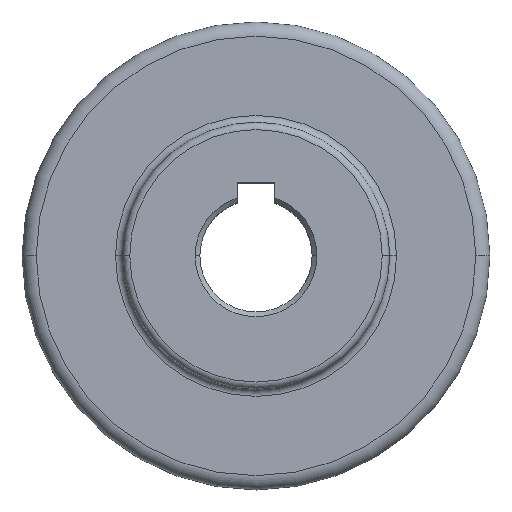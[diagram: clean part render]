
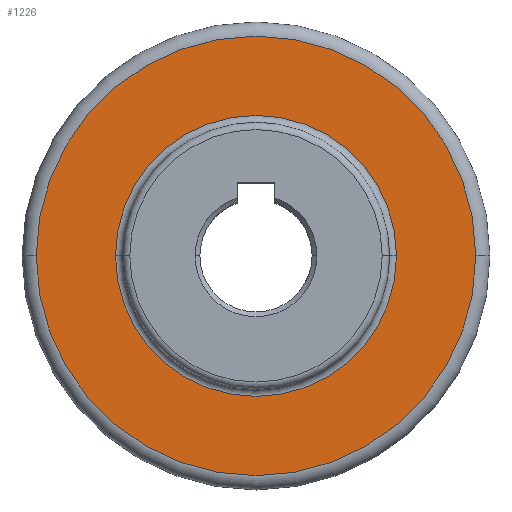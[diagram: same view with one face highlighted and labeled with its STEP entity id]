
A CAD part, top view. The second image highlights one B-rep face of the part: STEP entity #1226.
In plain terms, the highlighted planar face has unit normal (0, 0, 1).
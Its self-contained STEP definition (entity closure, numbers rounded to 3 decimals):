
#65 = FACE_OUTER_BOUND ( 'NONE', #1279, .T. ) ;
#98 = CARTESIAN_POINT ( 'NONE',  ( 0., 0., 8.6 ) ) ;
#121 = DIRECTION ( 'NONE',  ( -1., 0., 0. ) ) ;
#145 = AXIS2_PLACEMENT_3D ( 'NONE', #1183, #460, #121 ) ;
#174 = CIRCLE ( 'NONE', #145, 15.01 ) ;
#232 = ORIENTED_EDGE ( 'NONE', *, *, #1124, .T. ) ;
#243 = VERTEX_POINT ( 'NONE', #450 ) ;
#247 = CIRCLE ( 'NONE', #391, 23.48 ) ;
#281 = DIRECTION ( 'NONE',  ( 0., 0., -1. ) ) ;
#293 = DIRECTION ( 'NONE',  ( -1., 0., 0. ) ) ;
#319 = DIRECTION ( 'NONE',  ( 0., 0., 1. ) ) ;
#389 = CARTESIAN_POINT ( 'NONE',  ( 0., 25., 8.6 ) ) ;
#391 = AXIS2_PLACEMENT_3D ( 'NONE', #1353, #1008, #293 ) ;
#395 = EDGE_CURVE ( 'NONE', #1385, #702, #174, .T. ) ;
#439 = DIRECTION ( 'NONE',  ( -1., 0., 0. ) ) ;
#450 = CARTESIAN_POINT ( 'NONE',  ( -23.48, 0., 8.6 ) ) ;
#460 = DIRECTION ( 'NONE',  ( 0., 0., -1. ) ) ;
#501 = FACE_BOUND ( 'NONE', #735, .T. ) ;
#536 = ORIENTED_EDGE ( 'NONE', *, *, #1313, .T. ) ;
#603 = CARTESIAN_POINT ( 'NONE',  ( 0., 0., 8.6 ) ) ;
#702 = VERTEX_POINT ( 'NONE', #707 ) ;
#707 = CARTESIAN_POINT ( 'NONE',  ( -15.01, 0., 8.6 ) ) ;
#735 = EDGE_LOOP ( 'NONE', ( #232, #1003 ) ) ;
#776 = CARTESIAN_POINT ( 'NONE',  ( 23.48, 0., 8.6 ) ) ;
#818 = VERTEX_POINT ( 'NONE', #776 ) ;
#867 = CIRCLE ( 'NONE', #1140, 15.01 ) ;
#904 = CARTESIAN_POINT ( 'NONE',  ( 15.01, 0., 8.6 ) ) ;
#1003 = ORIENTED_EDGE ( 'NONE', *, *, #395, .T. ) ;
#1006 = CIRCLE ( 'NONE', #1390, 23.48 ) ;
#1008 = DIRECTION ( 'NONE',  ( 0., 0., 1. ) ) ;
#1106 = PLANE ( 'NONE',  #1355 ) ;
#1124 = EDGE_CURVE ( 'NONE', #702, #1385, #867, .T. ) ;
#1140 = AXIS2_PLACEMENT_3D ( 'NONE', #603, #1430, #1316 ) ;
#1183 = CARTESIAN_POINT ( 'NONE',  ( 0., 0., 8.6 ) ) ;
#1215 = DIRECTION ( 'NONE',  ( -1., 0., 0. ) ) ;
#1223 = ORIENTED_EDGE ( 'NONE', *, *, #1438, .T. ) ;
#1226 = ADVANCED_FACE ( 'NONE', ( #65, #501 ), #1106, .F. ) ;
#1279 = EDGE_LOOP ( 'NONE', ( #536, #1223 ) ) ;
#1313 = EDGE_CURVE ( 'NONE', #243, #818, #247, .T. ) ;
#1316 = DIRECTION ( 'NONE',  ( -1., 0., 0. ) ) ;
#1353 = CARTESIAN_POINT ( 'NONE',  ( 0., 0., 8.6 ) ) ;
#1355 = AXIS2_PLACEMENT_3D ( 'NONE', #389, #281, #1215 ) ;
#1385 = VERTEX_POINT ( 'NONE', #904 ) ;
#1390 = AXIS2_PLACEMENT_3D ( 'NONE', #98, #319, #439 ) ;
#1430 = DIRECTION ( 'NONE',  ( 0., 0., -1. ) ) ;
#1438 = EDGE_CURVE ( 'NONE', #818, #243, #1006, .T. ) ;
